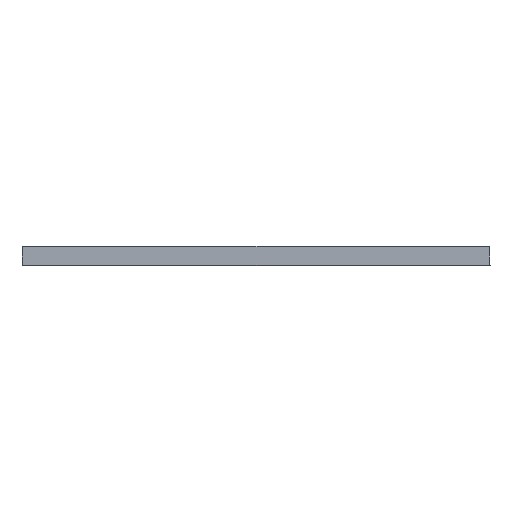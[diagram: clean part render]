
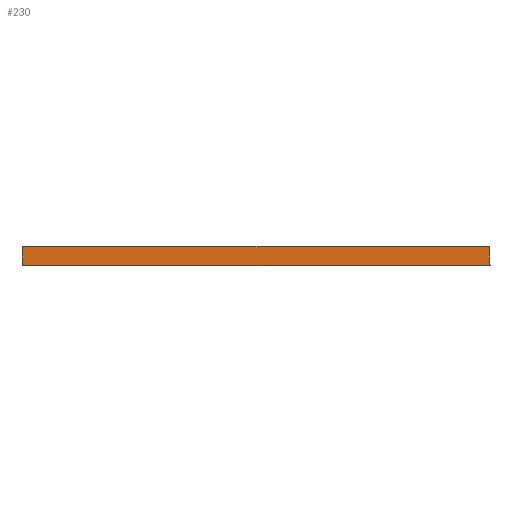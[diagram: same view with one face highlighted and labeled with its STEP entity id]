
A CAD part, front view. The second image highlights one B-rep face of the part: STEP entity #230.
In plain terms, the highlighted planar face has unit normal (0, -1, 0.009).
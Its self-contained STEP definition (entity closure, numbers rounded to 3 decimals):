
#230=ADVANCED_FACE('',(#299),#292,.T.);
#292=PLANE('',#1010);
#299=FACE_OUTER_BOUND('',#357,.T.);
#357=EDGE_LOOP('',(#423,#424,#425,#426));
#423=ORIENTED_EDGE('',*,*,#812,.T.);
#424=ORIENTED_EDGE('',*,*,#813,.T.);
#425=ORIENTED_EDGE('',*,*,#814,.T.);
#426=ORIENTED_EDGE('',*,*,#815,.T.);
#721=VERTEX_POINT('',#1209);
#722=VERTEX_POINT('',#1210);
#723=VERTEX_POINT('',#1212);
#724=VERTEX_POINT('',#1214);
#812=EDGE_CURVE('',#721,#722,#961,.T.);
#813=EDGE_CURVE('',#722,#723,#962,.T.);
#814=EDGE_CURVE('',#723,#724,#963,.T.);
#815=EDGE_CURVE('',#724,#721,#964,.T.);
#961=LINE('',#1208,#985);
#962=LINE('',#1211,#986);
#963=LINE('',#1213,#987);
#964=LINE('',#1215,#988);
#985=VECTOR('',#1069,1.);
#986=VECTOR('',#1070,1.);
#987=VECTOR('',#1071,1.);
#988=VECTOR('',#1072,1.);
#1010=AXIS2_PLACEMENT_3D('',#1216,#1073,#1074);
#1069=DIRECTION('',(-0.009,-0.009,-1.));
#1070=DIRECTION('',(1.,0.,0.));
#1071=DIRECTION('',(-0.009,0.009,1.));
#1072=DIRECTION('',(-1.,0.,0.));
#1073=DIRECTION('',(0.,-1.,0.009));
#1074=DIRECTION('',(0.,-0.009,-1.));
#1208=CARTESIAN_POINT('',(1.,-600.,-3.009));
#1209=CARTESIAN_POINT('',(1.279,-599.721,29.009));
#1210=CARTESIAN_POINT('',(1.009,-599.991,-1.991));
#1211=CARTESIAN_POINT('',(799.,-599.991,-1.991));
#1212=CARTESIAN_POINT('',(798.991,-599.991,-1.991));
#1213=CARTESIAN_POINT('',(798.939,-599.939,3.972));
#1214=CARTESIAN_POINT('',(798.721,-599.721,29.009));
#1215=CARTESIAN_POINT('',(1.288,-599.721,29.009));
#1216=CARTESIAN_POINT('',(0.,-600.,-3.));
